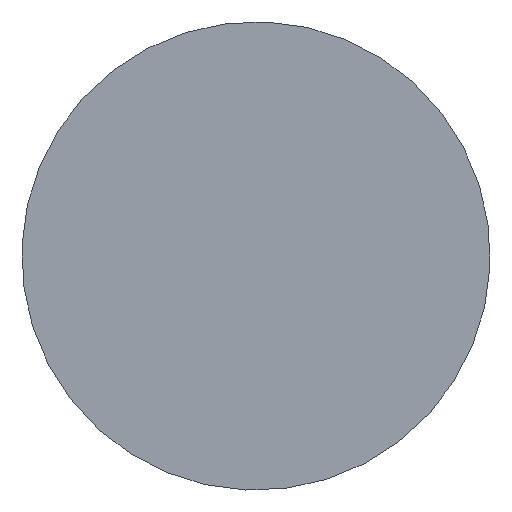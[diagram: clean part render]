
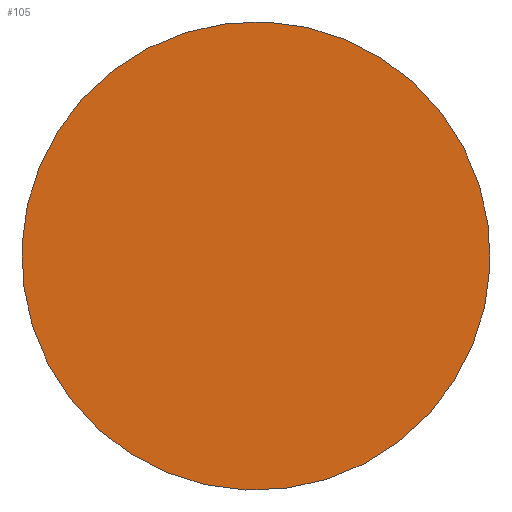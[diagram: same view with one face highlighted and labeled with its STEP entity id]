
A CAD part, front view. The second image highlights one B-rep face of the part: STEP entity #105.
In plain terms, the highlighted planar face has unit normal (0, -1, 0).
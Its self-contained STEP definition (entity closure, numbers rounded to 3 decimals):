
#22 = VERTEX_POINT('',#23);
#23 = CARTESIAN_POINT('',(53.951,-31.5,-23.023));
#32 = CYLINDRICAL_SURFACE('',#33,3.175);
#33 = AXIS2_PLACEMENT_3D('',#34,#35,#36);
#34 = CARTESIAN_POINT('',(50.851,-31.5,-22.336));
#35 = DIRECTION('',(0.,-1.,-0.));
#36 = DIRECTION('',(0.976,0.,-0.216));
#79 = EDGE_CURVE('',#22,#22,#80,.T.);
#80 = SURFACE_CURVE('',#81,(#86,#93),.PCURVE_S1.);
#81 = CIRCLE('',#82,3.175);
#82 = AXIS2_PLACEMENT_3D('',#83,#84,#85);
#83 = CARTESIAN_POINT('',(50.851,-31.5,-22.336));
#84 = DIRECTION('',(0.,1.,0.));
#85 = DIRECTION('',(0.976,0.,-0.216));
#86 = PCURVE('',#32,#87);
#87 = DEFINITIONAL_REPRESENTATION('',(#88),#92);
#88 = LINE('',#89,#90);
#89 = CARTESIAN_POINT('',(-0.,0.));
#90 = VECTOR('',#91,1.);
#91 = DIRECTION('',(-1.,0.));
#92 = ( GEOMETRIC_REPRESENTATION_CONTEXT(2) 
PARAMETRIC_REPRESENTATION_CONTEXT() REPRESENTATION_CONTEXT('2D SPACE',''
  ) );
#93 = PCURVE('',#94,#99);
#94 = PLANE('',#95);
#95 = AXIS2_PLACEMENT_3D('',#96,#97,#98);
#96 = CARTESIAN_POINT('',(50.851,-31.5,-22.336));
#97 = DIRECTION('',(0.,1.,0.));
#98 = DIRECTION('',(0.216,0.,0.976));
#99 = DEFINITIONAL_REPRESENTATION('',(#100),#104);
#100 = CIRCLE('',#101,3.175);
#101 = AXIS2_PLACEMENT_2D('',#102,#103);
#102 = CARTESIAN_POINT('',(0.,0.));
#103 = DIRECTION('',(0.,1.));
#104 = ( GEOMETRIC_REPRESENTATION_CONTEXT(2) 
PARAMETRIC_REPRESENTATION_CONTEXT() REPRESENTATION_CONTEXT('2D SPACE',''
  ) );
#105 = ADVANCED_FACE('',(#106),#94,.F.);
#106 = FACE_BOUND('',#107,.F.);
#107 = EDGE_LOOP('',(#108));
#108 = ORIENTED_EDGE('',*,*,#79,.T.);
